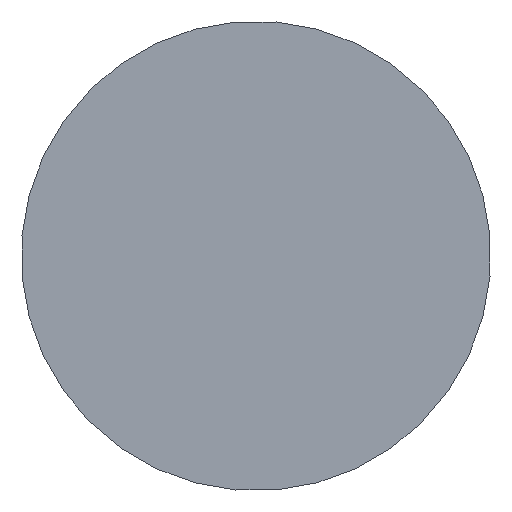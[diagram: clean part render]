
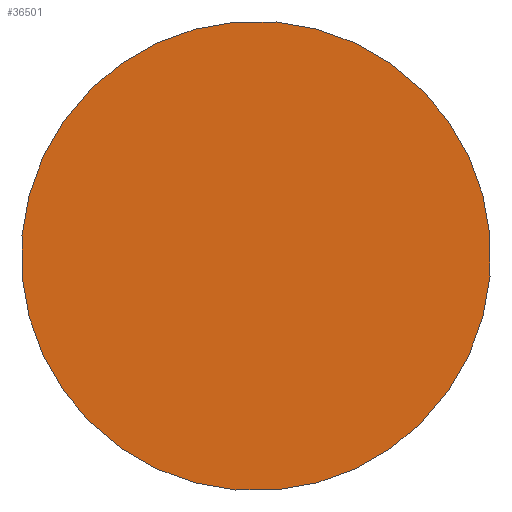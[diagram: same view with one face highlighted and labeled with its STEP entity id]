
A CAD part, left-side view. The second image highlights one B-rep face of the part: STEP entity #36501.
In plain terms, the highlighted planar face has unit normal (-1, 0, 0).
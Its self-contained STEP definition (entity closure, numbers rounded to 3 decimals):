
#36485=CARTESIAN_POINT('',(-5.328,121.72,-3.687));
#36486=DIRECTION('',(-1.0,0.0,0.0));
#36487=DIRECTION('',(0.0,0.088,0.996));
#36488=AXIS2_PLACEMENT_3D('',#36485,#36486,#36487);
#36489=PLANE('',#36488);
#36490=CARTESIAN_POINT('',(-5.328,122.716,-3.775));
#36491=VERTEX_POINT('',#36490);
#36492=CARTESIAN_POINT('',(-5.328,79.882,0.));
#36493=DIRECTION('',(1.,0.,0.));
#36494=DIRECTION('',(0.,0.996,-0.088));
#36495=AXIS2_PLACEMENT_3D('',#36492,#36493,#36494);
#36496=CIRCLE('',#36495,43.);
#36497=EDGE_CURVE('',#36491,#36491,#36496,.T.);
#36498=ORIENTED_EDGE('',*,*,#36497,.F.);
#36499=EDGE_LOOP('',(#36498));
#36500=FACE_OUTER_BOUND('',#36499,.T.);
#36501=ADVANCED_FACE('',(#36500),#36489,.T.);
